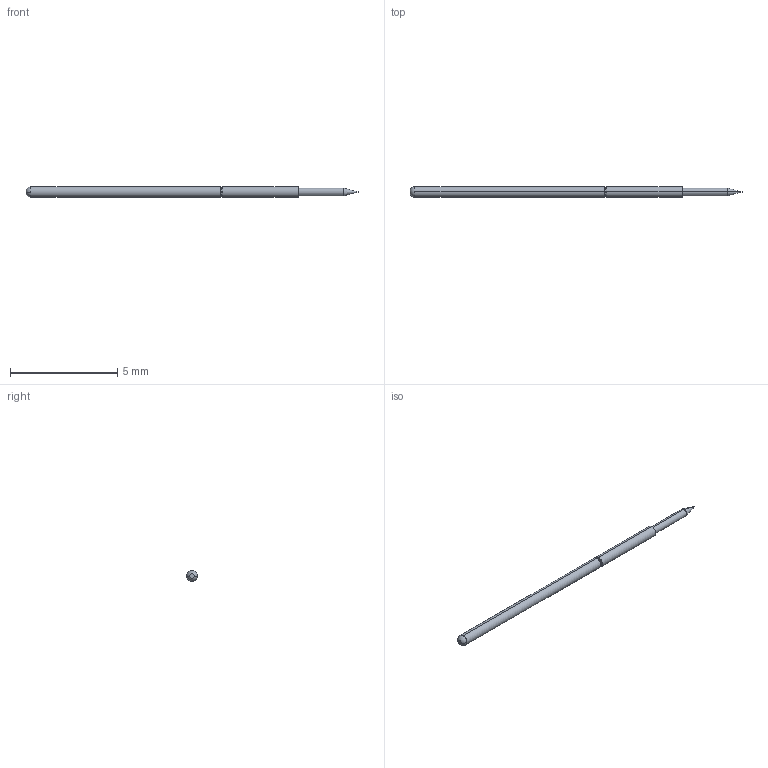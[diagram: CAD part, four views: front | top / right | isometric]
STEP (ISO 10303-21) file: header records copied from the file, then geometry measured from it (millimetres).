
FILE_DESCRIPTION (( 'STEP AP203' ), '1' );
FILE_NAME ('100426-001-942 (REST).STEP', '2023-01-03T09:07:58', ( '' ), ( '' ), 'SwSTEP 2.0', 'SolidWorks 2022', '' );
FILE_SCHEMA (( 'CONFIG_CONTROL_DESIGN' ));
Length unit declared in the file: inch
Products named in the file (1): 100426-001-942 (REST)
Bounding box: 15.49 x 0.51 x 0.51 mm (x, y, z)
Volume: 2.8 mm3; surface area: 23.3 mm2
Topology: 1 solids, 1 shells, 27 faces, 56 edges, 30 vertices
Faces by surface type: torus 8, cylinder 8, cone 6, plane 3, sphere 2
Entity records: 783 total; most frequent: DIRECTION 150, CARTESIAN_POINT 112, ORIENTED_EDGE 108, AXIS2_PLACEMENT_3D 68, EDGE_CURVE 54, CIRCLE 40, VERTEX_POINT 30, EDGE_LOOP 28
